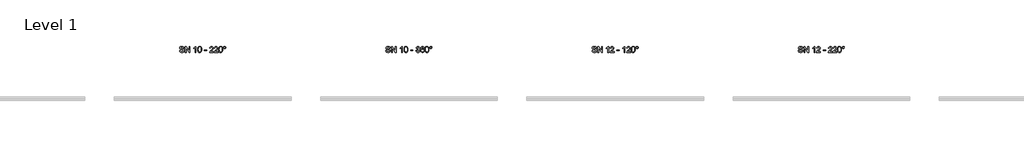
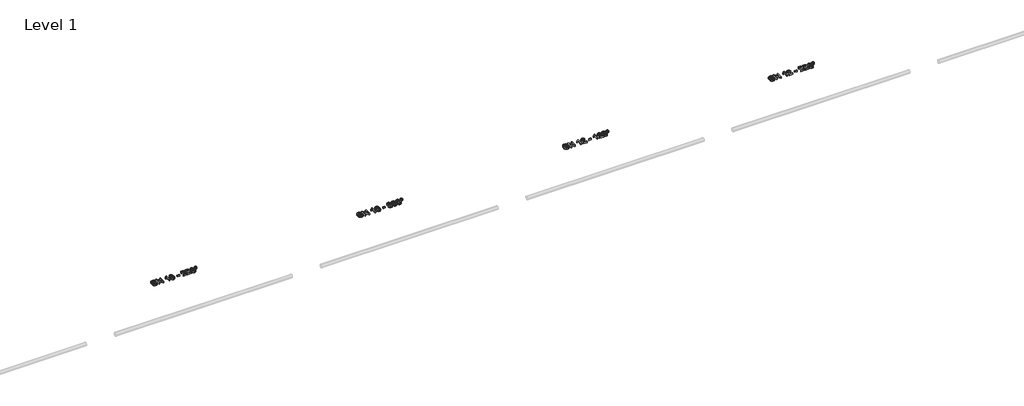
# One storey, part 8 of 9: 4 proxies.
"""IFC4 building model written with IfcOpenShell, lengths in millimetres."""

from ifc_helpers import new_model, si_unit, origin, origin_with_axes, place, context, project, spatial, polyline, outline, extrude, element, save

model = new_model("IFC4")

# Units and contexts
model_context = context("Model", 3, world=origin())
ifc_project = project(units=[si_unit("LENGTHUNIT", "METRE", prefix="MILLI")], contexts=[model_context])

# Site, building, storey
site = spatial("IfcSite", under=ifc_project)
building = spatial("IfcBuilding", under=site)
storey = spatial("IfcBuildingStorey", under=building, Name="Level 1", Elevation=0.0)

# Proxies
placement = place(None, origin())
element("IfcBuildingElementProxy", 1, Name="200mm Arial", ObjectType="200mm Arial", at=placement, inside=storey, context=model_context, shape_type="SweptSolid", body=[
    extrude(outline(polyline([(41180.9483219, 2231.0128426), (41206.0623994, 2231.0128426), (41214.1558033, 2205.8742396), (41222.2859954, 2196.983758), (41233.9233292, 2189.9817374), (41248.1480997, 2185.4383947), (41264.0406019, 2183.9239472), (41290.2828509, 2188.5102094), (41307.2299481, 2201.1162991), (41312.797229, 2217.9652945), (41308.6278997, 2233.6370675), (41302.2758039, 2239.8358791), (41291.5581751, 2245.0414093), (41254.9907048, 2254.6308667), (41215.6273313, 2267.0162272), (41203.1254748, 2275.4652503), (41194.2656501, 2285.7046325), (41188.9865435, 2297.5136446), (41187.2268413, 2310.6715573), (41189.4034764, 2325.3807057), (41195.9333818, 2339.0965728), (41206.6448793, 2350.7216438), (41221.3662904, 2359.1584042), (41239.0368889, 2364.2903581), (41258.5959483, 2366.0010093), (41279.7859513, 2364.2106503), (41298.3272038, 2358.8395732), (41313.5575184, 2349.9981425), (41324.8147075, 2337.796723), (41331.9393554, 2322.9956041), (41334.7720468, 2306.3550752), (41309.6579693, 2306.3550752), (41305.0471816, 2321.3401351), (41295.4331988, 2332.1558658), (41280.4113507, 2338.7041653), (41259.576967, 2340.8869318), (41238.252074, 2338.7286908), (41223.6226333, 2332.2539676), (41215.1613474, 2322.725824), (41212.3409188, 2311.4073212), (41214.3397443, 2301.7565502), (41220.3362208, 2293.9942401), (41234.5119404, 2287.0535332), (41261.3428006, 2279.9656734), (41305.7829456, 2267.3595837), (41320.0996866, 2258.2483729), (41330.0876827, 2247.0034466), (41335.9554006, 2233.7474321), (41337.9113065, 2218.6029566), (41335.661095, 2203.121256), (41328.9104604, 2188.5592603), (41317.9353142, 2176.026747), (41303.0115679, 2166.6334934), (41285.0650579, 2160.7657756), (41265.0216205, 2158.8098696), (41240.4164464, 2160.9190598), (41220.1645426, 2167.2466301), (41204.0329171, 2177.8171061), (41191.788578, 2192.6550132), (41183.9281661, 2210.7302819), (41180.9483219, 2231.0128426)])), origin_with_axes(), (0.0, 0.0, 1.0), 50.0),
    extrude(outline(polyline([(41375.5824228, 2161.9491293), (41375.5824228, 2362.8617496), (41402.4623339, 2362.8617496), (41507.4313299, 2203.6914731), (41507.4313299, 2362.8617496), (41532.5454074, 2362.8617496), (41532.5454074, 2161.9491293), (41505.6654963, 2161.9491293), (41400.6965003, 2321.1684569), (41400.6965003, 2161.9491293), (41375.5824228, 2161.9491293)])), origin_with_axes(), (0.0, 0.0, 1.0), 50.0),
    extrude(outline(polyline([(41739.7365471, 2161.9491293), (41714.6224696, 2161.9491293), (41714.6224696, 2318.5197065), (41690.8327672, 2301.5726092), (41664.3943145, 2288.8929431), (41664.3943145, 2312.6335946), (41701.2070395, 2336.1289913), (41714.6776519, 2349.7038369), (41723.5497393, 2362.8617496), (41739.7365471, 2362.8617496), (41739.7365471, 2161.9491293)])), origin_with_axes(), (0.0, 0.0, 1.0), 50.0),
    extrude(outline(polyline([(41799.3824813, 2260.7867587), (41801.2280226, 2292.9457765), (41806.7646466, 2318.5932829), (41815.937171, 2338.1216855), (41828.6904135, 2351.9233917), (41845.1163446, 2360.1271601), (41865.3069348, 2362.8617496), (41880.7825041, 2361.2430689), (41894.6393925, 2356.3870265), (41906.2276754, 2348.483695), (41914.8974277, 2337.7231466), (41926.6696516, 2307.9982814), (41931.2313883, 2260.7867587), (41929.4042411, 2228.811682), (41923.9227994, 2203.2254892), (41914.8054572, 2183.6786925), (41902.0706088, 2169.821804), (41885.6078896, 2161.5628532), (41865.3069348, 2158.8098696), (41839.2118386, 2163.5923356), (41819.3952618, 2177.9397334), (41810.6396703, 2193.0688805), (41804.3856764, 2211.919767), (41799.3824813, 2260.7867587)]), holes=[polyline([(41824.4965588, 2260.8358096), (41827.4396148, 2221.3314147), (41836.2687826, 2198.4675487), (41849.4144326, 2187.5598476), (41865.3069348, 2183.9239472), (41881.199437, 2187.5721103), (41894.3450869, 2198.5165997), (41903.1742548, 2221.3927284), (41906.1173108, 2260.8358096), (41903.2723567, 2299.4511564), (41894.7374944, 2322.492832), (41881.6163699, 2333.9339621), (41865.0126292, 2337.7476721), (41849.2918053, 2334.3876832), (41836.6611901, 2324.3077165), (41827.5377166, 2299.8313011), (41824.4965588, 2260.8358096)])]), origin_with_axes(), (0.0, 0.0, 1.0), 50.0),
    extrude(outline(polyline([(42025.4091791, 2221.5950635), (42025.4091791, 2246.709141), (42103.8906714, 2246.709141), (42103.8906714, 2221.5950635), (42025.4091791, 2221.5950635)])), origin_with_axes(), (0.0, 0.0, 1.0), 50.0),
    extrude(outline(polyline([(42333.0566289, 2187.0632069), (42333.0566289, 2161.9491293), (42201.2077219, 2161.9491293), (42203.9055231, 2179.2641086), (42219.1603632, 2205.9232905), (42250.6020111, 2235.0350191), (42293.9630356, 2276.8754646), (42302.0932277, 2291.2964388), (42304.8032917, 2305.3250056), (42302.2465118, 2317.9004385), (42294.5761722, 2328.3544185), (42282.7855543, 2335.3993587), (42267.8679394, 2337.7476721), (42252.2022977, 2335.454541), (42240.0315351, 2328.5751477), (42232.1772545, 2317.6490524), (42229.4610591, 2303.2158155), (42204.3469815, 2306.3550752), (42210.4354286, 2330.6475496), (42223.5994726, 2348.3917245), (42243.1524007, 2359.2442434), (42268.4074996, 2362.8617496), (42293.8465396, 2358.8395732), (42313.3626794, 2346.7730437), (42325.7786968, 2328.746826), (42329.9173692, 2306.8455845), (42325.4537344, 2283.0313567), (42310.6158272, 2258.4077885), (42274.6369681, 2223.9985592), (42245.7459687, 2199.8409748), (42234.4152033, 2187.0632069), (42333.0566289, 2187.0632069)])), origin_with_axes(), (0.0, 0.0, 1.0), 50.0),
    extrude(outline(polyline([(42486.8803538, 2187.0632069), (42486.8803538, 2161.9491293), (42355.0314468, 2161.9491293), (42357.7292481, 2179.2641086), (42372.9840881, 2205.9232905), (42404.425736, 2235.0350191), (42447.7867605, 2276.8754646), (42455.9169526, 2291.2964388), (42458.6270166, 2305.3250056), (42456.0702367, 2317.9004385), (42448.3998971, 2328.3544185), (42436.6092792, 2335.3993587), (42421.6916643, 2337.7476721), (42406.0260227, 2335.454541), (42393.85526, 2328.5751477), (42386.0009794, 2317.6490524), (42383.284784, 2303.2158155), (42358.1707065, 2306.3550752), (42364.2591535, 2330.6475496), (42377.4231975, 2348.3917245), (42396.9761256, 2359.2442434), (42422.2312246, 2362.8617496), (42447.6702645, 2358.8395732), (42467.1864044, 2346.7730437), (42479.6024217, 2328.746826), (42483.7410941, 2306.8455845), (42479.2774593, 2283.0313567), (42464.4395521, 2258.4077885), (42428.460693, 2223.9985592), (42399.5696937, 2199.8409748), (42388.2389282, 2187.0632069), (42486.8803538, 2187.0632069)])), origin_with_axes(), (0.0, 0.0, 1.0), 50.0),
    extrude(outline(polyline([(42511.9944314, 2260.7867587), (42513.8399727, 2292.9457765), (42519.3765967, 2318.5932829), (42528.5491212, 2338.1216855), (42541.3023637, 2351.9233917), (42557.7282947, 2360.1271601), (42577.9188849, 2362.8617496), (42593.3944542, 2361.2430689), (42607.2513427, 2356.3870265), (42618.8396255, 2348.483695), (42627.5093779, 2337.7231466), (42639.2816017, 2307.9982814), (42643.8433384, 2260.7867587), (42642.0161912, 2228.811682), (42636.5347495, 2203.2254892), (42627.4174074, 2183.6786925), (42614.682559, 2169.821804), (42598.2198397, 2161.5628532), (42577.9188849, 2158.8098696), (42551.8237887, 2163.5923356), (42532.0072119, 2177.9397334), (42523.2516204, 2193.0688805), (42516.9976265, 2211.919767), (42511.9944314, 2260.7867587)]), holes=[polyline([(42537.1085089, 2260.8358096), (42540.0515649, 2221.3314147), (42548.8807328, 2198.4675487), (42562.0263827, 2187.5598476), (42577.9188849, 2183.9239472), (42593.8113871, 2187.5721103), (42606.9570371, 2198.5165997), (42615.7862049, 2221.3927284), (42618.7292609, 2260.8358096), (42615.8843068, 2299.4511564), (42607.3494445, 2322.492832), (42594.22832, 2333.9339621), (42577.6245793, 2337.7476721), (42561.9037554, 2334.3876832), (42549.2731402, 2324.3077165), (42540.1496667, 2299.8313011), (42537.1085089, 2260.8358096)])]), origin_with_axes(), (0.0, 0.0, 1.0), 50.0),
    extrude(outline(polyline([(42672.0966757, 2328.378944), (42674.861922, 2342.8612318), (42683.157661, 2355.0136004), (42695.3284237, 2363.2541571), (42709.7187411, 2366.0010093), (42724.2746053, 2363.2541571), (42736.4514994, 2355.0136004), (42744.6920561, 2342.8612318), (42747.4389083, 2328.378944), (42744.673662, 2313.9150502), (42736.377923, 2301.719762), (42724.1826348, 2293.4240231), (42709.7187411, 2290.6587767), (42695.3284237, 2293.405629), (42683.157661, 2301.6461856), (42674.861922, 2313.8230797), (42672.0966757, 2328.378944)]), holes=[polyline([(42687.7929741, 2328.329893), (42689.4055236, 2319.8808699), (42694.2431718, 2312.7807474), (42701.3616884, 2307.9614932), (42709.8168429, 2306.3550752), (42718.198421, 2307.9614932), (42725.2924122, 2312.7807474), (42730.1300604, 2319.8808699), (42731.7426098, 2328.329893), (42730.1300604, 2336.7789162), (42725.2924122, 2343.8790387), (42718.198421, 2348.6982928), (42709.8168429, 2350.3047109), (42701.3616884, 2348.6982928), (42694.2431718, 2343.8790387), (42689.4055236, 2336.7789162), (42687.7929741, 2328.329893)])]), origin_with_axes(), (0.0, 0.0, 1.0), 50.0),
])
element("IfcBuildingElementProxy", 2, Name="200mm Arial", ObjectType="200mm Arial", at=placement, inside=storey, context=model_context, shape_type="SweptSolid", body=[
    extrude(outline(polyline([(48180.9483219, 2231.0128426), (48206.0623994, 2231.0128426), (48214.1558033, 2205.8742396), (48222.2859954, 2196.983758), (48233.9233292, 2189.9817374), (48248.1480997, 2185.4383947), (48264.0406019, 2183.9239472), (48290.2828509, 2188.5102094), (48307.2299481, 2201.1162991), (48312.797229, 2217.9652945), (48308.6278997, 2233.6370675), (48302.2758039, 2239.8358791), (48291.5581751, 2245.0414093), (48254.9907048, 2254.6308667), (48215.6273313, 2267.0162272), (48203.1254748, 2275.4652503), (48194.2656501, 2285.7046325), (48188.9865435, 2297.5136446), (48187.2268413, 2310.6715573), (48189.4034764, 2325.3807057), (48195.9333818, 2339.0965728), (48206.6448793, 2350.7216438), (48221.3662904, 2359.1584042), (48239.0368889, 2364.2903581), (48258.5959483, 2366.0010093), (48279.7859513, 2364.2106503), (48298.3272038, 2358.8395732), (48313.5575184, 2349.9981425), (48324.8147075, 2337.796723), (48331.9393554, 2322.9956041), (48334.7720468, 2306.3550752), (48309.6579693, 2306.3550752), (48305.0471816, 2321.3401351), (48295.4331988, 2332.1558658), (48280.4113507, 2338.7041653), (48259.576967, 2340.8869318), (48238.252074, 2338.7286908), (48223.6226333, 2332.2539676), (48215.1613474, 2322.725824), (48212.3409188, 2311.4073212), (48214.3397443, 2301.7565502), (48220.3362208, 2293.9942401), (48234.5119404, 2287.0535332), (48261.3428006, 2279.9656734), (48305.7829456, 2267.3595837), (48320.0996866, 2258.2483729), (48330.0876827, 2247.0034466), (48335.9554006, 2233.7474321), (48337.9113065, 2218.6029566), (48335.661095, 2203.121256), (48328.9104604, 2188.5592603), (48317.9353142, 2176.026747), (48303.0115679, 2166.6334934), (48285.0650579, 2160.7657756), (48265.0216205, 2158.8098696), (48240.4164464, 2160.9190598), (48220.1645426, 2167.2466301), (48204.0329171, 2177.8171061), (48191.788578, 2192.6550132), (48183.9281661, 2210.7302819), (48180.9483219, 2231.0128426)])), origin_with_axes(), (0.0, 0.0, 1.0), 50.0),
    extrude(outline(polyline([(48375.5824228, 2161.9491293), (48375.5824228, 2362.8617496), (48402.4623339, 2362.8617496), (48507.4313299, 2203.6914731), (48507.4313299, 2362.8617496), (48532.5454074, 2362.8617496), (48532.5454074, 2161.9491293), (48505.6654963, 2161.9491293), (48400.6965003, 2321.1684569), (48400.6965003, 2161.9491293), (48375.5824228, 2161.9491293)])), origin_with_axes(), (0.0, 0.0, 1.0), 50.0),
    extrude(outline(polyline([(48739.7365471, 2161.9491293), (48714.6224696, 2161.9491293), (48714.6224696, 2318.5197065), (48690.8327672, 2301.5726092), (48664.3943145, 2288.8929431), (48664.3943145, 2312.6335946), (48701.2070395, 2336.1289913), (48714.6776519, 2349.7038369), (48723.5497393, 2362.8617496), (48739.7365471, 2362.8617496), (48739.7365471, 2161.9491293)])), origin_with_axes(), (0.0, 0.0, 1.0), 50.0),
    extrude(outline(polyline([(48799.3824813, 2260.7867587), (48801.2280226, 2292.9457765), (48806.7646466, 2318.5932829), (48815.937171, 2338.1216855), (48828.6904135, 2351.9233917), (48845.1163446, 2360.1271601), (48865.3069348, 2362.8617496), (48880.7825041, 2361.2430689), (48894.6393925, 2356.3870265), (48906.2276754, 2348.483695), (48914.8974277, 2337.7231466), (48926.6696516, 2307.9982814), (48931.2313883, 2260.7867587), (48929.4042411, 2228.811682), (48923.9227994, 2203.2254892), (48914.8054572, 2183.6786925), (48902.0706088, 2169.821804), (48885.6078896, 2161.5628532), (48865.3069348, 2158.8098696), (48839.2118386, 2163.5923356), (48819.3952618, 2177.9397334), (48810.6396703, 2193.0688805), (48804.3856764, 2211.919767), (48799.3824813, 2260.7867587)]), holes=[polyline([(48824.4965588, 2260.8358096), (48827.4396148, 2221.3314147), (48836.2687826, 2198.4675487), (48849.4144326, 2187.5598476), (48865.3069348, 2183.9239472), (48881.199437, 2187.5721103), (48894.3450869, 2198.5165997), (48903.1742548, 2221.3927284), (48906.1173108, 2260.8358096), (48903.2723567, 2299.4511564), (48894.7374944, 2322.492832), (48881.6163699, 2333.9339621), (48865.0126292, 2337.7476721), (48849.2918053, 2334.3876832), (48836.6611901, 2324.3077165), (48827.5377166, 2299.8313011), (48824.4965588, 2260.8358096)])]), origin_with_axes(), (0.0, 0.0, 1.0), 50.0),
    extrude(outline(polyline([(49025.4091791, 2221.5950635), (49025.4091791, 2246.709141), (49103.8906714, 2246.709141), (49103.8906714, 2221.5950635), (49025.4091791, 2221.5950635)])), origin_with_axes(), (0.0, 0.0, 1.0), 50.0),
    extrude(outline(polyline([(49204.3469815, 2215.3165441), (49229.4610591, 2218.4558038), (49235.0835222, 2202.6736662), (49243.3179476, 2192.0173511), (49254.5690053, 2185.9472982), (49269.2413655, 2183.9239472), (49286.4582429, 2186.7075876), (49299.7510456, 2195.0585089), (49308.2491197, 2207.5174458), (49311.0818111, 2222.6251331), (49308.2736452, 2236.9663995), (49299.8491475, 2248.5976019), (49287.095905, 2256.3047297), (49271.3015047, 2258.8737723), (49253.6922198, 2256.1269201), (49256.488123, 2281.2409976), (49260.5102995, 2280.946692), (49275.5566731, 2282.7493138), (49289.0088914, 2288.1571792), (49298.5002468, 2297.3051781), (49301.664032, 2310.3282007), (49299.3709009, 2321.1745882), (49292.4915076, 2329.9730993), (49281.994608, 2335.8040289), (49268.848958, 2337.7476721), (49255.6787826, 2335.7856348), (49244.9121029, 2329.8995229), (49237.0516909, 2320.0893363), (49232.6003188, 2306.3550752), (49207.4862412, 2309.4943349), (49214.8806693, 2332.0455012), (49228.038582, 2348.8822338), (49246.0402743, 2359.3668707), (49267.9660412, 2362.8617496), (49283.7543102, 2361.1388356), (49298.2549922, 2355.9700936), (49310.4809372, 2347.815376), (49319.4449951, 2337.1345354), (49324.9448309, 2324.8288827), (49326.7781095, 2311.7997287), (49325.0368014, 2299.6596229), (49319.8128771, 2288.6476885), (49311.1799129, 2279.2666976), (49299.2114854, 2272.0194223), (49314.9323093, 2265.6673265), (49326.5819058, 2254.8515959), (49333.7923929, 2240.1608415), (49336.1958886, 2222.1836747), (49331.3888972, 2197.7072593), (49316.967923, 2177.2530203), (49295.2015716, 2163.4206573), (49268.3584487, 2158.8098696), (49244.078237, 2162.746207), (49224.3107111, 2174.555219), (49210.5641873, 2192.618225), (49204.3469815, 2215.3165441)])), origin_with_axes(), (0.0, 0.0, 1.0), 50.0),
    extrude(outline(polyline([(49486.8803538, 2309.4943349), (49461.7662763, 2306.3550752), (49452.2503954, 2327.2998234), (49440.8583162, 2335.1357099), (49427.0872669, 2337.7476721), (49404.425736, 2331.6653564), (49394.9895628, 2322.057505), (49387.282435, 2308.8321473), (49382.0769048, 2290.1253478), (49380.1455243, 2264.0731712), (49390.2193596, 2275.8270009), (49402.2920204, 2284.1104772), (49415.6890564, 2289.0217018), (49429.7360173, 2290.6587767), (49452.9371084, 2286.1828791), (49472.4103287, 2272.7551863), (49485.6172923, 2252.2396337), (49490.0196135, 2226.5001568), (49487.9472116, 2208.5168586), (49481.7300059, 2191.8456728), (49471.8830312, 2177.7067415), (49458.9213222, 2167.3202065), (49443.4334902, 2160.9374539), (49426.0081464, 2158.8098696), (49397.5156858, 2164.4507269), (49374.8234981, 2181.3732987), (49366.1644756, 2194.4821604), (49359.9794596, 2211.2453167), (49355.0314468, 2255.7345126), (49360.5251512, 2305.7542013), (49367.3922818, 2324.8319484), (49377.0062646, 2339.9549641), (49387.4265221, 2349.9766828), (49399.50838, 2357.1350532), (49428.6568967, 2362.8617496), (49450.6930282, 2359.3178198), (49468.3391013, 2348.6860301), (49480.6999363, 2331.8002465), (49486.8803538, 2309.4943349)]), holes=[polyline([(49380.1455243, 2226.8925642), (49385.9580598, 2205.1384756), (49401.4091036, 2189.3440752), (49424.0461091, 2183.9239472), (49440.6191929, 2186.7321131), (49453.6483469, 2195.1566108), (49462.0912387, 2208.4003626), (49464.905536, 2225.6662909), (49462.1280269, 2242.2393748), (49453.7954997, 2254.8761213), (49440.5456165, 2262.8775547), (49423.0160395, 2265.5446992), (49406.4674811, 2262.8775547), (49392.6289867, 2254.8761213), (49383.2663899, 2242.5459431), (49380.1455243, 2226.8925642)])]), origin_with_axes(), (0.0, 0.0, 1.0), 50.0),
    extrude(outline(polyline([(49511.9944314, 2260.7867587), (49513.8399727, 2292.9457765), (49519.3765967, 2318.5932829), (49528.5491212, 2338.1216855), (49541.3023637, 2351.9233917), (49557.7282947, 2360.1271601), (49577.9188849, 2362.8617496), (49593.3944542, 2361.2430689), (49607.2513427, 2356.3870265), (49618.8396255, 2348.483695), (49627.5093779, 2337.7231466), (49639.2816017, 2307.9982814), (49643.8433384, 2260.7867587), (49642.0161912, 2228.811682), (49636.5347495, 2203.2254892), (49627.4174074, 2183.6786925), (49614.682559, 2169.821804), (49598.2198397, 2161.5628532), (49577.9188849, 2158.8098696), (49551.8237887, 2163.5923356), (49532.0072119, 2177.9397334), (49523.2516204, 2193.0688805), (49516.9976265, 2211.919767), (49511.9944314, 2260.7867587)]), holes=[polyline([(49537.1085089, 2260.8358096), (49540.0515649, 2221.3314147), (49548.8807328, 2198.4675487), (49562.0263827, 2187.5598476), (49577.9188849, 2183.9239472), (49593.8113871, 2187.5721103), (49606.9570371, 2198.5165997), (49615.7862049, 2221.3927284), (49618.7292609, 2260.8358096), (49615.8843068, 2299.4511564), (49607.3494445, 2322.492832), (49594.22832, 2333.9339621), (49577.6245793, 2337.7476721), (49561.9037554, 2334.3876832), (49549.2731402, 2324.3077165), (49540.1496667, 2299.8313011), (49537.1085089, 2260.8358096)])]), origin_with_axes(), (0.0, 0.0, 1.0), 50.0),
    extrude(outline(polyline([(49672.0966757, 2328.378944), (49674.861922, 2342.8612318), (49683.157661, 2355.0136004), (49695.3284237, 2363.2541571), (49709.7187411, 2366.0010093), (49724.2746053, 2363.2541571), (49736.4514994, 2355.0136004), (49744.6920561, 2342.8612318), (49747.4389083, 2328.378944), (49744.673662, 2313.9150502), (49736.377923, 2301.719762), (49724.1826348, 2293.4240231), (49709.7187411, 2290.6587767), (49695.3284237, 2293.405629), (49683.157661, 2301.6461856), (49674.861922, 2313.8230797), (49672.0966757, 2328.378944)]), holes=[polyline([(49687.7929741, 2328.329893), (49689.4055236, 2319.8808699), (49694.2431718, 2312.7807474), (49701.3616884, 2307.9614932), (49709.8168429, 2306.3550752), (49718.198421, 2307.9614932), (49725.2924122, 2312.7807474), (49730.1300604, 2319.8808699), (49731.7426098, 2328.329893), (49730.1300604, 2336.7789162), (49725.2924122, 2343.8790387), (49718.198421, 2348.6982928), (49709.8168429, 2350.3047109), (49701.3616884, 2348.6982928), (49694.2431718, 2343.8790387), (49689.4055236, 2336.7789162), (49687.7929741, 2328.329893)])]), origin_with_axes(), (0.0, 0.0, 1.0), 50.0),
])
element("IfcBuildingElementProxy", 3, Name="200mm Arial", ObjectType="200mm Arial", at=placement, inside=storey, context=model_context, shape_type="SweptSolid", body=[
    extrude(outline(polyline([(55180.9483219, 2231.0128426), (55206.0623994, 2231.0128426), (55214.1558033, 2205.8742396), (55222.2859954, 2196.983758), (55233.9233292, 2189.9817374), (55248.1480997, 2185.4383947), (55264.0406019, 2183.9239472), (55290.2828509, 2188.5102094), (55307.2299481, 2201.1162991), (55312.797229, 2217.9652945), (55308.6278997, 2233.6370675), (55302.2758039, 2239.8358791), (55291.5581751, 2245.0414093), (55254.9907048, 2254.6308667), (55215.6273313, 2267.0162272), (55203.1254748, 2275.4652503), (55194.2656501, 2285.7046325), (55188.9865435, 2297.5136446), (55187.2268413, 2310.6715573), (55189.4034764, 2325.3807057), (55195.9333818, 2339.0965728), (55206.6448793, 2350.7216438), (55221.3662904, 2359.1584042), (55239.0368889, 2364.2903581), (55258.5959483, 2366.0010093), (55279.7859513, 2364.2106503), (55298.3272038, 2358.8395732), (55313.5575184, 2349.9981425), (55324.8147075, 2337.796723), (55331.9393554, 2322.9956041), (55334.7720468, 2306.3550752), (55309.6579693, 2306.3550752), (55305.0471816, 2321.3401351), (55295.4331988, 2332.1558658), (55280.4113507, 2338.7041653), (55259.576967, 2340.8869318), (55238.252074, 2338.7286908), (55223.6226333, 2332.2539676), (55215.1613474, 2322.725824), (55212.3409188, 2311.4073212), (55214.3397443, 2301.7565502), (55220.3362208, 2293.9942401), (55234.5119404, 2287.0535332), (55261.3428006, 2279.9656734), (55305.7829456, 2267.3595837), (55320.0996866, 2258.2483729), (55330.0876827, 2247.0034466), (55335.9554006, 2233.7474321), (55337.9113065, 2218.6029566), (55335.661095, 2203.121256), (55328.9104604, 2188.5592603), (55317.9353142, 2176.026747), (55303.0115679, 2166.6334934), (55285.0650579, 2160.7657756), (55265.0216205, 2158.8098696), (55240.4164464, 2160.9190598), (55220.1645426, 2167.2466301), (55204.0329171, 2177.8171061), (55191.788578, 2192.6550132), (55183.9281661, 2210.7302819), (55180.9483219, 2231.0128426)])), origin_with_axes(), (0.0, 0.0, 1.0), 50.0),
    extrude(outline(polyline([(55375.5824228, 2161.9491293), (55375.5824228, 2362.8617496), (55402.4623339, 2362.8617496), (55507.4313299, 2203.6914731), (55507.4313299, 2362.8617496), (55532.5454074, 2362.8617496), (55532.5454074, 2161.9491293), (55505.6654963, 2161.9491293), (55400.6965003, 2321.1684569), (55400.6965003, 2161.9491293), (55375.5824228, 2161.9491293)])), origin_with_axes(), (0.0, 0.0, 1.0), 50.0),
    extrude(outline(polyline([(55739.7365471, 2161.9491293), (55714.6224696, 2161.9491293), (55714.6224696, 2318.5197065), (55690.8327672, 2301.5726092), (55664.3943145, 2288.8929431), (55664.3943145, 2312.6335946), (55701.2070395, 2336.1289913), (55714.6776519, 2349.7038369), (55723.5497393, 2362.8617496), (55739.7365471, 2362.8617496), (55739.7365471, 2161.9491293)])), origin_with_axes(), (0.0, 0.0, 1.0), 50.0),
    extrude(outline(polyline([(55928.0921286, 2187.0632069), (55928.0921286, 2161.9491293), (55796.2432216, 2161.9491293), (55798.9410229, 2179.2641086), (55814.1958629, 2205.9232905), (55845.6375108, 2235.0350191), (55888.9985353, 2276.8754646), (55897.1287274, 2291.2964388), (55899.8387914, 2305.3250056), (55897.2820115, 2317.9004385), (55889.6116719, 2328.3544185), (55877.821054, 2335.3993587), (55862.9034391, 2337.7476721), (55847.2377975, 2335.454541), (55835.0670348, 2328.5751477), (55827.2127542, 2317.6490524), (55824.4965588, 2303.2158155), (55799.3824813, 2306.3550752), (55805.4709283, 2330.6475496), (55818.6349723, 2348.3917245), (55838.1879004, 2359.2442434), (55863.4429993, 2362.8617496), (55888.8820393, 2358.8395732), (55908.3981792, 2346.7730437), (55920.8141965, 2328.746826), (55924.9528689, 2306.8455845), (55920.4892341, 2283.0313567), (55905.6513269, 2258.4077885), (55869.6724678, 2223.9985592), (55840.7814684, 2199.8409748), (55829.450703, 2187.0632069), (55928.0921286, 2187.0632069)])), origin_with_axes(), (0.0, 0.0, 1.0), 50.0),
    extrude(outline(polyline([(56025.4091791, 2221.5950635), (56025.4091791, 2246.709141), (56103.8906714, 2246.709141), (56103.8906714, 2221.5950635), (56025.4091791, 2221.5950635)])), origin_with_axes(), (0.0, 0.0, 1.0), 50.0),
    extrude(outline(polyline([(56298.5247723, 2161.9491293), (56273.4106948, 2161.9491293), (56273.4106948, 2318.5197065), (56249.6209924, 2301.5726092), (56223.1825397, 2288.8929431), (56223.1825397, 2312.6335946), (56259.9952647, 2336.1289913), (56273.4658771, 2349.7038369), (56282.3379645, 2362.8617496), (56298.5247723, 2362.8617496), (56298.5247723, 2161.9491293)])), origin_with_axes(), (0.0, 0.0, 1.0), 50.0),
    extrude(outline(polyline([(56486.8803538, 2187.0632069), (56486.8803538, 2161.9491293), (56355.0314468, 2161.9491293), (56357.7292481, 2179.2641086), (56372.9840881, 2205.9232905), (56404.425736, 2235.0350191), (56447.7867605, 2276.8754646), (56455.9169526, 2291.2964388), (56458.6270166, 2305.3250056), (56456.0702367, 2317.9004385), (56448.3998971, 2328.3544185), (56436.6092792, 2335.3993587), (56421.6916643, 2337.7476721), (56406.0260227, 2335.454541), (56393.85526, 2328.5751477), (56386.0009794, 2317.6490524), (56383.284784, 2303.2158155), (56358.1707065, 2306.3550752), (56364.2591535, 2330.6475496), (56377.4231975, 2348.3917245), (56396.9761256, 2359.2442434), (56422.2312246, 2362.8617496), (56447.6702645, 2358.8395732), (56467.1864044, 2346.7730437), (56479.6024217, 2328.746826), (56483.7410941, 2306.8455845), (56479.2774593, 2283.0313567), (56464.4395521, 2258.4077885), (56428.460693, 2223.9985592), (56399.5696937, 2199.8409748), (56388.2389282, 2187.0632069), (56486.8803538, 2187.0632069)])), origin_with_axes(), (0.0, 0.0, 1.0), 50.0),
    extrude(outline(polyline([(56511.9944314, 2260.7867587), (56513.8399727, 2292.9457765), (56519.3765967, 2318.5932829), (56528.5491212, 2338.1216855), (56541.3023637, 2351.9233917), (56557.7282947, 2360.1271601), (56577.9188849, 2362.8617496), (56593.3944542, 2361.2430689), (56607.2513427, 2356.3870265), (56618.8396255, 2348.483695), (56627.5093779, 2337.7231466), (56639.2816017, 2307.9982814), (56643.8433384, 2260.7867587), (56642.0161912, 2228.811682), (56636.5347495, 2203.2254892), (56627.4174074, 2183.6786925), (56614.682559, 2169.821804), (56598.2198397, 2161.5628532), (56577.9188849, 2158.8098696), (56551.8237887, 2163.5923356), (56532.0072119, 2177.9397334), (56523.2516204, 2193.0688805), (56516.9976265, 2211.919767), (56511.9944314, 2260.7867587)]), holes=[polyline([(56537.1085089, 2260.8358096), (56540.0515649, 2221.3314147), (56548.8807328, 2198.4675487), (56562.0263827, 2187.5598476), (56577.9188849, 2183.9239472), (56593.8113871, 2187.5721103), (56606.9570371, 2198.5165997), (56615.7862049, 2221.3927284), (56618.7292609, 2260.8358096), (56615.8843068, 2299.4511564), (56607.3494445, 2322.492832), (56594.22832, 2333.9339621), (56577.6245793, 2337.7476721), (56561.9037554, 2334.3876832), (56549.2731402, 2324.3077165), (56540.1496667, 2299.8313011), (56537.1085089, 2260.8358096)])]), origin_with_axes(), (0.0, 0.0, 1.0), 50.0),
    extrude(outline(polyline([(56672.0966757, 2328.378944), (56674.861922, 2342.8612318), (56683.157661, 2355.0136004), (56695.3284237, 2363.2541571), (56709.7187411, 2366.0010093), (56724.2746053, 2363.2541571), (56736.4514994, 2355.0136004), (56744.6920561, 2342.8612318), (56747.4389083, 2328.378944), (56744.673662, 2313.9150502), (56736.377923, 2301.719762), (56724.1826348, 2293.4240231), (56709.7187411, 2290.6587767), (56695.3284237, 2293.405629), (56683.157661, 2301.6461856), (56674.861922, 2313.8230797), (56672.0966757, 2328.378944)]), holes=[polyline([(56687.7929741, 2328.329893), (56689.4055236, 2319.8808699), (56694.2431718, 2312.7807474), (56701.3616884, 2307.9614932), (56709.8168429, 2306.3550752), (56718.198421, 2307.9614932), (56725.2924122, 2312.7807474), (56730.1300604, 2319.8808699), (56731.7426098, 2328.329893), (56730.1300604, 2336.7789162), (56725.2924122, 2343.8790387), (56718.198421, 2348.6982928), (56709.8168429, 2350.3047109), (56701.3616884, 2348.6982928), (56694.2431718, 2343.8790387), (56689.4055236, 2336.7789162), (56687.7929741, 2328.329893)])]), origin_with_axes(), (0.0, 0.0, 1.0), 50.0),
])
element("IfcBuildingElementProxy", 4, Name="200mm Arial", ObjectType="200mm Arial", at=placement, inside=storey, context=model_context, shape_type="SweptSolid", body=[
    extrude(outline(polyline([(62180.9483219, 2231.0128426), (62206.0623994, 2231.0128426), (62214.1558033, 2205.8742396), (62222.2859954, 2196.983758), (62233.9233292, 2189.9817374), (62248.1480997, 2185.4383947), (62264.0406019, 2183.9239472), (62290.2828509, 2188.5102094), (62307.2299481, 2201.1162991), (62312.797229, 2217.9652945), (62308.6278997, 2233.6370675), (62302.2758039, 2239.8358791), (62291.5581751, 2245.0414093), (62254.9907048, 2254.6308667), (62215.6273313, 2267.0162272), (62203.1254748, 2275.4652503), (62194.2656501, 2285.7046325), (62188.9865435, 2297.5136446), (62187.2268413, 2310.6715573), (62189.4034764, 2325.3807057), (62195.9333818, 2339.0965728), (62206.6448793, 2350.7216438), (62221.3662904, 2359.1584042), (62239.0368889, 2364.2903581), (62258.5959483, 2366.0010093), (62279.7859513, 2364.2106503), (62298.3272038, 2358.8395732), (62313.5575184, 2349.9981425), (62324.8147075, 2337.796723), (62331.9393554, 2322.9956041), (62334.7720468, 2306.3550752), (62309.6579693, 2306.3550752), (62305.0471816, 2321.3401351), (62295.4331988, 2332.1558658), (62280.4113507, 2338.7041653), (62259.576967, 2340.8869318), (62238.252074, 2338.7286908), (62223.6226333, 2332.2539676), (62215.1613474, 2322.725824), (62212.3409188, 2311.4073212), (62214.3397443, 2301.7565502), (62220.3362208, 2293.9942401), (62234.5119404, 2287.0535332), (62261.3428006, 2279.9656734), (62305.7829456, 2267.3595837), (62320.0996866, 2258.2483729), (62330.0876827, 2247.0034466), (62335.9554006, 2233.7474321), (62337.9113065, 2218.6029566), (62335.661095, 2203.121256), (62328.9104604, 2188.5592603), (62317.9353142, 2176.026747), (62303.0115679, 2166.6334934), (62285.0650579, 2160.7657756), (62265.0216205, 2158.8098696), (62240.4164464, 2160.9190598), (62220.1645426, 2167.2466301), (62204.0329171, 2177.8171061), (62191.788578, 2192.6550132), (62183.9281661, 2210.7302819), (62180.9483219, 2231.0128426)])), origin_with_axes(), (0.0, 0.0, 1.0), 50.0),
    extrude(outline(polyline([(62375.5824228, 2161.9491293), (62375.5824228, 2362.8617496), (62402.4623339, 2362.8617496), (62507.4313299, 2203.6914731), (62507.4313299, 2362.8617496), (62532.5454074, 2362.8617496), (62532.5454074, 2161.9491293), (62505.6654963, 2161.9491293), (62400.6965003, 2321.1684569), (62400.6965003, 2161.9491293), (62375.5824228, 2161.9491293)])), origin_with_axes(), (0.0, 0.0, 1.0), 50.0),
    extrude(outline(polyline([(62739.7365471, 2161.9491293), (62714.6224696, 2161.9491293), (62714.6224696, 2318.5197065), (62690.8327672, 2301.5726092), (62664.3943145, 2288.8929431), (62664.3943145, 2312.6335946), (62701.2070395, 2336.1289913), (62714.6776519, 2349.7038369), (62723.5497393, 2362.8617496), (62739.7365471, 2362.8617496), (62739.7365471, 2161.9491293)])), origin_with_axes(), (0.0, 0.0, 1.0), 50.0),
    extrude(outline(polyline([(62928.0921286, 2187.0632069), (62928.0921286, 2161.9491293), (62796.2432216, 2161.9491293), (62798.9410229, 2179.2641086), (62814.1958629, 2205.9232905), (62845.6375108, 2235.0350191), (62888.9985353, 2276.8754646), (62897.1287274, 2291.2964388), (62899.8387914, 2305.3250056), (62897.2820115, 2317.9004385), (62889.6116719, 2328.3544185), (62877.821054, 2335.3993587), (62862.9034391, 2337.7476721), (62847.2377975, 2335.454541), (62835.0670348, 2328.5751477), (62827.2127542, 2317.6490524), (62824.4965588, 2303.2158155), (62799.3824813, 2306.3550752), (62805.4709283, 2330.6475496), (62818.6349723, 2348.3917245), (62838.1879004, 2359.2442434), (62863.4429993, 2362.8617496), (62888.8820393, 2358.8395732), (62908.3981792, 2346.7730437), (62920.8141965, 2328.746826), (62924.9528689, 2306.8455845), (62920.4892341, 2283.0313567), (62905.6513269, 2258.4077885), (62869.6724678, 2223.9985592), (62840.7814684, 2199.8409748), (62829.450703, 2187.0632069), (62928.0921286, 2187.0632069)])), origin_with_axes(), (0.0, 0.0, 1.0), 50.0),
    extrude(outline(polyline([(63025.4091791, 2221.5950635), (63025.4091791, 2246.709141), (63103.8906714, 2246.709141), (63103.8906714, 2221.5950635), (63025.4091791, 2221.5950635)])), origin_with_axes(), (0.0, 0.0, 1.0), 50.0),
    extrude(outline(polyline([(63333.0566289, 2187.0632069), (63333.0566289, 2161.9491293), (63201.2077219, 2161.9491293), (63203.9055231, 2179.2641086), (63219.1603632, 2205.9232905), (63250.6020111, 2235.0350191), (63293.9630356, 2276.8754646), (63302.0932277, 2291.2964388), (63304.8032917, 2305.3250056), (63302.2465118, 2317.9004385), (63294.5761722, 2328.3544185), (63282.7855543, 2335.3993587), (63267.8679394, 2337.7476721), (63252.2022977, 2335.454541), (63240.0315351, 2328.5751477), (63232.1772545, 2317.6490524), (63229.4610591, 2303.2158155), (63204.3469815, 2306.3550752), (63210.4354286, 2330.6475496), (63223.5994726, 2348.3917245), (63243.1524007, 2359.2442434), (63268.4074996, 2362.8617496), (63293.8465396, 2358.8395732), (63313.3626794, 2346.7730437), (63325.7786968, 2328.746826), (63329.9173692, 2306.8455845), (63325.4537344, 2283.0313567), (63310.6158272, 2258.4077885), (63274.6369681, 2223.9985592), (63245.7459687, 2199.8409748), (63234.4152033, 2187.0632069), (63333.0566289, 2187.0632069)])), origin_with_axes(), (0.0, 0.0, 1.0), 50.0),
    extrude(outline(polyline([(63486.8803538, 2187.0632069), (63486.8803538, 2161.9491293), (63355.0314468, 2161.9491293), (63357.7292481, 2179.2641086), (63372.9840881, 2205.9232905), (63404.425736, 2235.0350191), (63447.7867605, 2276.8754646), (63455.9169526, 2291.2964388), (63458.6270166, 2305.3250056), (63456.0702367, 2317.9004385), (63448.3998971, 2328.3544185), (63436.6092792, 2335.3993587), (63421.6916643, 2337.7476721), (63406.0260227, 2335.454541), (63393.85526, 2328.5751477), (63386.0009794, 2317.6490524), (63383.284784, 2303.2158155), (63358.1707065, 2306.3550752), (63364.2591535, 2330.6475496), (63377.4231975, 2348.3917245), (63396.9761256, 2359.2442434), (63422.2312246, 2362.8617496), (63447.6702645, 2358.8395732), (63467.1864044, 2346.7730437), (63479.6024217, 2328.746826), (63483.7410941, 2306.8455845), (63479.2774593, 2283.0313567), (63464.4395521, 2258.4077885), (63428.460693, 2223.9985592), (63399.5696937, 2199.8409748), (63388.2389282, 2187.0632069), (63486.8803538, 2187.0632069)])), origin_with_axes(), (0.0, 0.0, 1.0), 50.0),
    extrude(outline(polyline([(63511.9944314, 2260.7867587), (63513.8399727, 2292.9457765), (63519.3765967, 2318.5932829), (63528.5491212, 2338.1216855), (63541.3023637, 2351.9233917), (63557.7282947, 2360.1271601), (63577.9188849, 2362.8617496), (63593.3944542, 2361.2430689), (63607.2513427, 2356.3870265), (63618.8396255, 2348.483695), (63627.5093779, 2337.7231466), (63639.2816017, 2307.9982814), (63643.8433384, 2260.7867587), (63642.0161912, 2228.811682), (63636.5347495, 2203.2254892), (63627.4174074, 2183.6786925), (63614.682559, 2169.821804), (63598.2198397, 2161.5628532), (63577.9188849, 2158.8098696), (63551.8237887, 2163.5923356), (63532.0072119, 2177.9397334), (63523.2516204, 2193.0688805), (63516.9976265, 2211.919767), (63511.9944314, 2260.7867587)]), holes=[polyline([(63537.1085089, 2260.8358096), (63540.0515649, 2221.3314147), (63548.8807328, 2198.4675487), (63562.0263827, 2187.5598476), (63577.9188849, 2183.9239472), (63593.8113871, 2187.5721103), (63606.9570371, 2198.5165997), (63615.7862049, 2221.3927284), (63618.7292609, 2260.8358096), (63615.8843068, 2299.4511564), (63607.3494445, 2322.492832), (63594.22832, 2333.9339621), (63577.6245793, 2337.7476721), (63561.9037554, 2334.3876832), (63549.2731402, 2324.3077165), (63540.1496667, 2299.8313011), (63537.1085089, 2260.8358096)])]), origin_with_axes(), (0.0, 0.0, 1.0), 50.0),
    extrude(outline(polyline([(63672.0966757, 2328.378944), (63674.861922, 2342.8612318), (63683.157661, 2355.0136004), (63695.3284237, 2363.2541571), (63709.7187411, 2366.0010093), (63724.2746053, 2363.2541571), (63736.4514994, 2355.0136004), (63744.6920561, 2342.8612318), (63747.4389083, 2328.378944), (63744.673662, 2313.9150502), (63736.377923, 2301.719762), (63724.1826348, 2293.4240231), (63709.7187411, 2290.6587767), (63695.3284237, 2293.405629), (63683.157661, 2301.6461856), (63674.861922, 2313.8230797), (63672.0966757, 2328.378944)]), holes=[polyline([(63687.7929741, 2328.329893), (63689.4055236, 2319.8808699), (63694.2431718, 2312.7807474), (63701.3616884, 2307.9614932), (63709.8168429, 2306.3550752), (63718.198421, 2307.9614932), (63725.2924122, 2312.7807474), (63730.1300604, 2319.8808699), (63731.7426098, 2328.329893), (63730.1300604, 2336.7789162), (63725.2924122, 2343.8790387), (63718.198421, 2348.6982928), (63709.8168429, 2350.3047109), (63701.3616884, 2348.6982928), (63694.2431718, 2343.8790387), (63689.4055236, 2336.7789162), (63687.7929741, 2328.329893)])]), origin_with_axes(), (0.0, 0.0, 1.0), 50.0),
])

save(model, "model.ifc")
